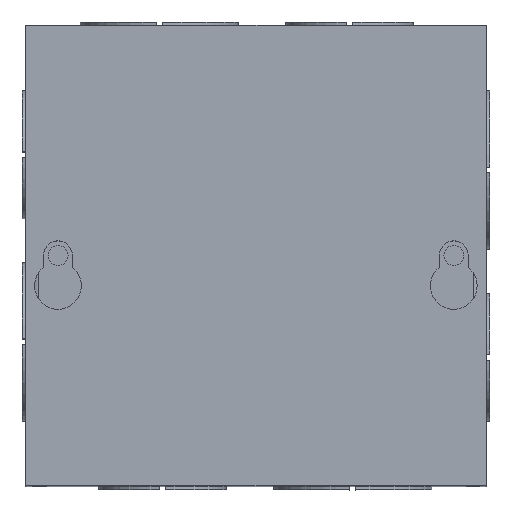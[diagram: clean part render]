
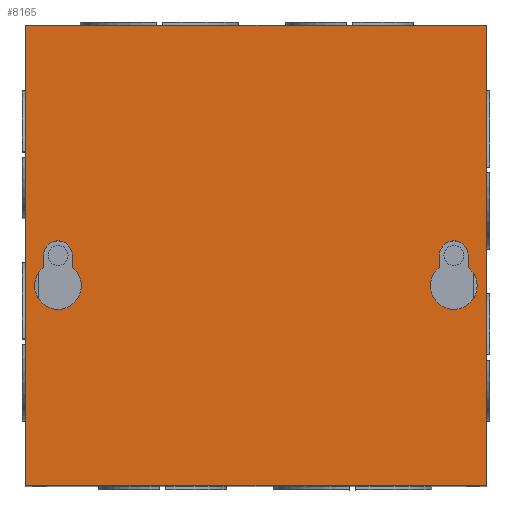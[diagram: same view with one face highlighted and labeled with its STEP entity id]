
A CAD part, top view. The second image highlights one B-rep face of the part: STEP entity #8165.
In plain terms, the highlighted planar face has unit normal (0, 0, 1).
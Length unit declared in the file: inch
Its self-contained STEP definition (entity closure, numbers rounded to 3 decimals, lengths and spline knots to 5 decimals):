
#1154 = CARTESIAN_POINT ( 'NONE',  ( -1.923, -0.264, 0.055 ) ) ;
#1256 = CARTESIAN_POINT ( 'NONE',  ( 1.921, -0.264, 0.055 ) ) ;
#1257 = CARTESIAN_POINT ( 'NONE',  ( 1.515, -0.264, 0.055 ) ) ;
#1263 = CARTESIAN_POINT ( 'NONE',  ( -1.517, -0.264, 0.055 ) ) ;
#1264 = DIRECTION ( 'NONE',  ( 1., 0., 0. ) ) ;
#1265 = DIRECTION ( 'NONE',  ( 0., 0., 1. ) ) ;
#1266 = CARTESIAN_POINT ( 'NONE',  ( -1.72, -0.264, 0.055 ) ) ;
#1267 = AXIS2_PLACEMENT_3D ( 'NONE', #1266, #1265, #1264 ) ;
#1273 = CIRCLE ( 'NONE', #1267, 0.203 ) ;
#1274 = CARTESIAN_POINT ( 'NONE',  ( -1.72, -0.264, 0.055 ) ) ;
#1333 = CARTESIAN_POINT ( 'NONE',  ( -1.845, -0.10405, 0.055 ) ) ;
#1334 = DIRECTION ( 'NONE',  ( 1., 0., 0. ) ) ;
#1335 = DIRECTION ( 'NONE',  ( 0., 0., 1. ) ) ;
#1336 = AXIS2_PLACEMENT_3D ( 'NONE', #1274, #1335, #1334 ) ;
#1337 = CIRCLE ( 'NONE', #1336, 0.203 ) ;
#1356 = DIRECTION ( 'NONE',  ( 1., 0., 0. ) ) ;
#1357 = DIRECTION ( 'NONE',  ( 0., 0., 1. ) ) ;
#1358 = CARTESIAN_POINT ( 'NONE',  ( 1.718, -0.264, 0.055 ) ) ;
#1359 = AXIS2_PLACEMENT_3D ( 'NONE', #1358, #1357, #1356 ) ;
#1360 = CIRCLE ( 'NONE', #1359, 0.203 ) ;
#3508 = DIRECTION ( 'NONE',  ( 1., 0., 0. ) ) ;
#3509 = DIRECTION ( 'NONE',  ( 0., 0., 1. ) ) ;
#3510 = CARTESIAN_POINT ( 'NONE',  ( 1.718, -0.264, 0.055 ) ) ;
#3511 = AXIS2_PLACEMENT_3D ( 'NONE', #3510, #3509, #3508 ) ;
#3512 = CIRCLE ( 'NONE', #3511, 0.203 ) ;
#3515 = CARTESIAN_POINT ( 'NONE',  ( 1.843, 0.002, 0.055 ) ) ;
#3516 = CARTESIAN_POINT ( 'NONE',  ( 1.843, -0.10405, 0.055 ) ) ;
#3547 = CARTESIAN_POINT ( 'NONE',  ( 1.593, -0.10405, 0.055 ) ) ;
#3548 = DIRECTION ( 'NONE',  ( 1., 0., 0. ) ) ;
#3549 = DIRECTION ( 'NONE',  ( 0., 0., 1. ) ) ;
#3550 = CARTESIAN_POINT ( 'NONE',  ( 1.718, -0.264, 0.055 ) ) ;
#3551 = AXIS2_PLACEMENT_3D ( 'NONE', #3550, #3549, #3548 ) ;
#3552 = CIRCLE ( 'NONE', #3551, 0.203 ) ;
#4014 = DIRECTION ( 'NONE',  ( 0., 1., 0. ) ) ;
#4016 = VECTOR ( 'NONE', #4014, 39.37008 ) ;
#4018 = CARTESIAN_POINT ( 'NONE',  ( 1.843, 0.002, 0.055 ) ) ;
#4020 = LINE ( 'NONE', #4018, #4016 ) ;
#4280 = DIRECTION ( 'NONE',  ( 1., 0., 0. ) ) ;
#4282 = VECTOR ( 'NONE', #4280, 39.37008 ) ;
#4284 = CARTESIAN_POINT ( 'NONE',  ( -2., -2., 0.055 ) ) ;
#4285 = LINE ( 'NONE', #4284, #4282 ) ;
#4289 = CARTESIAN_POINT ( 'NONE',  ( 2., -2., 0.055 ) ) ;
#4375 = CARTESIAN_POINT ( 'NONE',  ( -2., -2., 0.055 ) ) ;
#4377 = DIRECTION ( 'NONE',  ( 0., -1., 0. ) ) ;
#4378 = VECTOR ( 'NONE', #4377, 39.37008 ) ;
#4379 = CARTESIAN_POINT ( 'NONE',  ( -2., 2., 0.055 ) ) ;
#4381 = LINE ( 'NONE', #4379, #4378 ) ;
#4385 = DIRECTION ( 'NONE',  ( 1., 0., 0. ) ) ;
#4386 = DIRECTION ( 'NONE',  ( 0., 0., 1. ) ) ;
#4387 = CARTESIAN_POINT ( 'NONE',  ( 1.718, 0.002, 0.055 ) ) ;
#4389 = AXIS2_PLACEMENT_3D ( 'NONE', #4387, #4386, #4385 ) ;
#4391 = CIRCLE ( 'NONE', #4389, 0.125 ) ;
#4397 = CARTESIAN_POINT ( 'NONE',  ( -2., 2., 0.055 ) ) ;
#4400 = CARTESIAN_POINT ( 'NONE',  ( 1.593, 0.002, 0.055 ) ) ;
#4402 = DIRECTION ( 'NONE',  ( 0., -1., 0. ) ) ;
#4403 = VECTOR ( 'NONE', #4402, 39.37008 ) ;
#4405 = CARTESIAN_POINT ( 'NONE',  ( 1.593, 0.002, 0.055 ) ) ;
#4406 = LINE ( 'NONE', #4405, #4403 ) ;
#4410 = DIRECTION ( 'NONE',  ( 1., 0., 0. ) ) ;
#4411 = DIRECTION ( 'NONE',  ( 0., 0., 1. ) ) ;
#4412 = CARTESIAN_POINT ( 'NONE',  ( -1.72, -0.264, 0.055 ) ) ;
#4414 = AXIS2_PLACEMENT_3D ( 'NONE', #4412, #4411, #4410 ) ;
#4415 = CIRCLE ( 'NONE', #4414, 0.203 ) ;
#4420 = CARTESIAN_POINT ( 'NONE',  ( -1.845, 0.002, 0.055 ) ) ;
#4444 = DIRECTION ( 'NONE',  ( 0., -1., 0. ) ) ;
#4445 = VECTOR ( 'NONE', #4444, 39.37008 ) ;
#4447 = CARTESIAN_POINT ( 'NONE',  ( -1.845, 0.002, 0.055 ) ) ;
#4448 = LINE ( 'NONE', #4447, #4445 ) ;
#4454 = CARTESIAN_POINT ( 'NONE',  ( -1.595, 0.002, 0.055 ) ) ;
#4456 = CARTESIAN_POINT ( 'NONE',  ( -1.595, -0.10405, 0.055 ) ) ;
#4458 = DIRECTION ( 'NONE',  ( 0., 1., 0. ) ) ;
#4459 = VECTOR ( 'NONE', #4458, 39.37008 ) ;
#4461 = CARTESIAN_POINT ( 'NONE',  ( -1.595, 0.002, 0.055 ) ) ;
#4464 = LINE ( 'NONE', #4461, #4459 ) ;
#4467 = DIRECTION ( 'NONE',  ( -1., 0., 0. ) ) ;
#4469 = VECTOR ( 'NONE', #4467, 39.37008 ) ;
#4471 = CARTESIAN_POINT ( 'NONE',  ( -2., 2., 0.055 ) ) ;
#4473 = LINE ( 'NONE', #4471, #4469 ) ;
#4508 = DIRECTION ( 'NONE',  ( 1., 0., 0. ) ) ;
#4509 = DIRECTION ( 'NONE',  ( 0., 0., 1. ) ) ;
#4510 = CARTESIAN_POINT ( 'NONE',  ( -1.72, 0.002, 0.055 ) ) ;
#4511 = AXIS2_PLACEMENT_3D ( 'NONE', #4510, #4509, #4508 ) ;
#4512 = CIRCLE ( 'NONE', #4511, 0.125 ) ;
#4943 = DIRECTION ( 'NONE',  ( 1., 0., 0. ) ) ;
#4944 = DIRECTION ( 'NONE',  ( 0., 0., 1. ) ) ;
#4945 = CARTESIAN_POINT ( 'NONE',  ( -2., -2., 0.055 ) ) ;
#4946 = AXIS2_PLACEMENT_3D ( 'NONE', #4945, #4944, #4943 ) ;
#4947 = CARTESIAN_POINT ( 'NONE',  ( 2., 2., 0.055 ) ) ;
#4948 = PLANE ( 'NONE',  #4946 ) ;
#4949 = FACE_BOUND ( 'NONE', #7110, .T. ) ;
#4950 = FACE_OUTER_BOUND ( 'NONE', #7095, .T. ) ;
#4951 = FACE_BOUND ( 'NONE', #6955, .T. ) ;
#4972 = DIRECTION ( 'NONE',  ( 0., 1., 0. ) ) ;
#4973 = VECTOR ( 'NONE', #4972, 39.37008 ) ;
#4974 = CARTESIAN_POINT ( 'NONE',  ( 2., 2., 0.055 ) ) ;
#4975 = LINE ( 'NONE', #4974, #4973 ) ;
#4984 = VERTEX_POINT ( 'NONE', #1154 ) ;
#5042 = EDGE_CURVE ( 'NONE', #4984, #5043, #1273, .T. ) ;
#5043 = VERTEX_POINT ( 'NONE', #1263 ) ;
#5047 = VERTEX_POINT ( 'NONE', #1257 ) ;
#5048 = VERTEX_POINT ( 'NONE', #1256 ) ;
#5072 = EDGE_CURVE ( 'NONE', #5073, #4984, #1337, .T. ) ;
#5073 = VERTEX_POINT ( 'NONE', #1333 ) ;
#5090 = EDGE_CURVE ( 'NONE', #5047, #5048, #1360, .T. ) ;
#6934 = VERTEX_POINT ( 'NONE', #3516 ) ;
#6936 = VERTEX_POINT ( 'NONE', #3515 ) ;
#6938 = EDGE_CURVE ( 'NONE', #5048, #6934, #3512, .T. ) ;
#6939 = ORIENTED_EDGE ( 'NONE', *, *, #6938, .F. ) ;
#6950 = EDGE_CURVE ( 'NONE', #6951, #5047, #3552, .T. ) ;
#6951 = VERTEX_POINT ( 'NONE', #3547 ) ;
#6952 = ORIENTED_EDGE ( 'NONE', *, *, #5090, .F. ) ;
#6955 = EDGE_LOOP ( 'NONE', ( #7000, #6939, #6952, #7088, #7090, #7092 ) ) ;
#6997 = EDGE_CURVE ( 'NONE', #6934, #6936, #4020, .T. ) ;
#7000 = ORIENTED_EDGE ( 'NONE', *, *, #6997, .F. ) ;
#7081 = VERTEX_POINT ( 'NONE', #4289 ) ;
#7082 = EDGE_CURVE ( 'NONE', #7098, #7081, #4285, .T. ) ;
#7083 = ORIENTED_EDGE ( 'NONE', *, *, #7082, .T. ) ;
#7084 = ORIENTED_EDGE ( 'NONE', *, *, #7085, .F. ) ;
#7085 = EDGE_CURVE ( 'NONE', #5043, #7112, #4415, .T. ) ;
#7086 = ORIENTED_EDGE ( 'NONE', *, *, #5072, .F. ) ;
#7087 = ORIENTED_EDGE ( 'NONE', *, *, #5042, .F. ) ;
#7088 = ORIENTED_EDGE ( 'NONE', *, *, #6950, .F. ) ;
#7089 = EDGE_CURVE ( 'NONE', #7091, #6951, #4406, .T. ) ;
#7090 = ORIENTED_EDGE ( 'NONE', *, *, #7089, .F. ) ;
#7091 = VERTEX_POINT ( 'NONE', #4400 ) ;
#7092 = ORIENTED_EDGE ( 'NONE', *, *, #7094, .F. ) ;
#7093 = VERTEX_POINT ( 'NONE', #4397 ) ;
#7094 = EDGE_CURVE ( 'NONE', #6936, #7091, #4391, .T. ) ;
#7095 = EDGE_LOOP ( 'NONE', ( #7096, #7083, #8172, #7109 ) ) ;
#7096 = ORIENTED_EDGE ( 'NONE', *, *, #7097, .T. ) ;
#7097 = EDGE_CURVE ( 'NONE', #7093, #7098, #4381, .T. ) ;
#7098 = VERTEX_POINT ( 'NONE', #4375 ) ;
#7107 = EDGE_CURVE ( 'NONE', #8166, #7093, #4473, .T. ) ;
#7108 = EDGE_CURVE ( 'NONE', #7112, #7113, #4464, .T. ) ;
#7109 = ORIENTED_EDGE ( 'NONE', *, *, #7107, .T. ) ;
#7110 = EDGE_LOOP ( 'NONE', ( #7111, #7084, #7087, #7086, #7127, #7130 ) ) ;
#7111 = ORIENTED_EDGE ( 'NONE', *, *, #7108, .F. ) ;
#7112 = VERTEX_POINT ( 'NONE', #4456 ) ;
#7113 = VERTEX_POINT ( 'NONE', #4454 ) ;
#7116 = EDGE_CURVE ( 'NONE', #7125, #5073, #4448, .T. ) ;
#7125 = VERTEX_POINT ( 'NONE', #4420 ) ;
#7127 = ORIENTED_EDGE ( 'NONE', *, *, #7116, .F. ) ;
#7128 = EDGE_CURVE ( 'NONE', #7113, #7125, #4512, .T. ) ;
#7130 = ORIENTED_EDGE ( 'NONE', *, *, #7128, .F. ) ;
#8165 = ADVANCED_FACE ( 'NONE', ( #4951, #4950, #4949 ), #4948, .T. ) ;
#8166 = VERTEX_POINT ( 'NONE', #4947 ) ;
#8172 = ORIENTED_EDGE ( 'NONE', *, *, #8173, .T. ) ;
#8173 = EDGE_CURVE ( 'NONE', #7081, #8166, #4975, .T. ) ;
